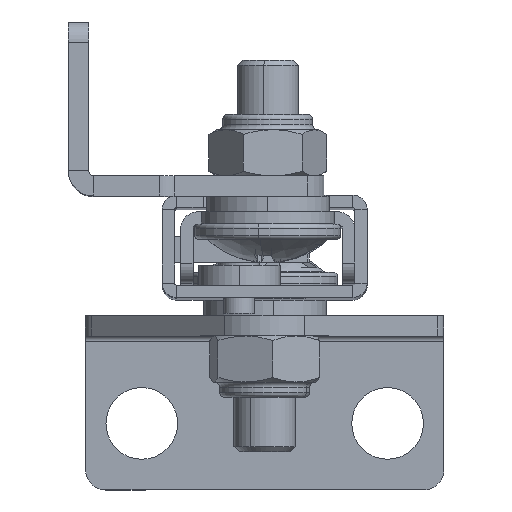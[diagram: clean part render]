
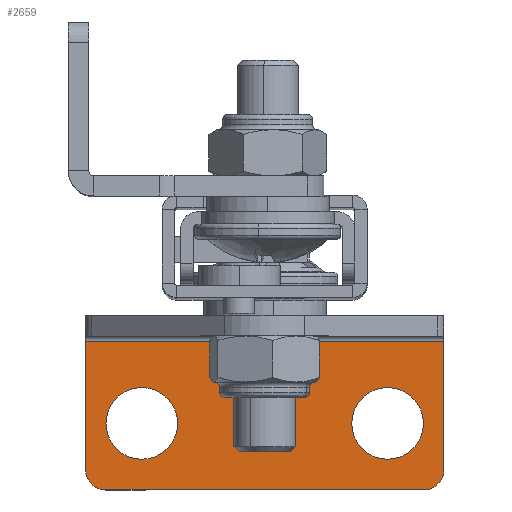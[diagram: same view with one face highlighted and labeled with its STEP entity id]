
A CAD part, top view. The second image highlights one B-rep face of the part: STEP entity #2659.
In plain terms, the highlighted planar face has unit normal (0, 0, 1) as drawn and (0, 1, 0) by its records, which use the part's own axes.
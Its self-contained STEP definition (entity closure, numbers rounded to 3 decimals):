
#7 = AXIS2_PLACEMENT_3D ( 'NONE', #2160, #6446, #2791 ) ;
#17 = CARTESIAN_POINT ( 'NONE',  ( 17.5, 2., 15. ) ) ;
#46 = ORIENTED_EDGE ( 'NONE', *, *, #3852, .T. ) ;
#79 = ORIENTED_EDGE ( 'NONE', *, *, #6822, .T. ) ;
#144 = EDGE_LOOP ( 'NONE', ( #883, #46, #7023, #79, #1412, #944 ) ) ;
#205 = FACE_BOUND ( 'NONE', #1816, .T. ) ;
#251 = CIRCLE ( 'NONE', #1207, 3.5 ) ;
#258 = EDGE_CURVE ( 'NONE', #7790, #3642, #3034, .T. ) ;
#440 = CARTESIAN_POINT ( 'NONE',  ( 17.5, 2., 17. ) ) ;
#506 = DIRECTION ( 'NONE',  ( -1., 0., 0. ) ) ;
#556 = CARTESIAN_POINT ( 'NONE',  ( 17.5, 2., 2.5 ) ) ;
#883 = ORIENTED_EDGE ( 'NONE', *, *, #5287, .F. ) ;
#944 = ORIENTED_EDGE ( 'NONE', *, *, #2532, .T. ) ;
#1095 = DIRECTION ( 'NONE',  ( 0., 0., -1. ) ) ;
#1170 = DIRECTION ( 'NONE',  ( 0., -1., 0. ) ) ;
#1207 = AXIS2_PLACEMENT_3D ( 'NONE', #7327, #3637, #7983 ) ;
#1260 = CARTESIAN_POINT ( 'NONE',  ( -17.5, 2., 15. ) ) ;
#1407 = CARTESIAN_POINT ( 'NONE',  ( -15.5, 2., 17. ) ) ;
#1412 = ORIENTED_EDGE ( 'NONE', *, *, #258, .T. ) ;
#1494 = AXIS2_PLACEMENT_3D ( 'NONE', #3083, #7388, #3694 ) ;
#1555 = VECTOR ( 'NONE', #1095, 1000. ) ;
#1713 = DIRECTION ( 'NONE',  ( -1., 0., 0. ) ) ;
#1790 = AXIS2_PLACEMENT_3D ( 'NONE', #2034, #6337, #2677 ) ;
#1816 = EDGE_LOOP ( 'NONE', ( #5571, #6869 ) ) ;
#2034 = CARTESIAN_POINT ( 'NONE',  ( -15.5, 2., 15. ) ) ;
#2101 = CARTESIAN_POINT ( 'NONE',  ( -12., 2., 10.5 ) ) ;
#2160 = CARTESIAN_POINT ( 'NONE',  ( 15.5, 2., 15. ) ) ;
#2178 = CARTESIAN_POINT ( 'NONE',  ( 12., 2., 14. ) ) ;
#2237 = EDGE_LOOP ( 'NONE', ( #7090, #3566 ) ) ;
#2532 = EDGE_CURVE ( 'NONE', #3642, #5117, #4691, .T. ) ;
#2659 = ADVANCED_FACE ( 'NONE', ( #4970, #205, #3355 ), #3345, .T. ) ;
#2665 = CIRCLE ( 'NONE', #5091, 3.5 ) ;
#2677 = DIRECTION ( 'NONE',  ( 0., 0., 1. ) ) ;
#2724 = DIRECTION ( 'NONE',  ( 0., 0., 1. ) ) ;
#2774 = CIRCLE ( 'NONE', #3594, 3.5 ) ;
#2791 = DIRECTION ( 'NONE',  ( 0., 0., 1. ) ) ;
#3034 = LINE ( 'NONE', #3588, #1555 ) ;
#3067 = VECTOR ( 'NONE', #506, 1000. ) ;
#3083 = CARTESIAN_POINT ( 'NONE',  ( 12., 2., 10.5 ) ) ;
#3098 = CARTESIAN_POINT ( 'NONE',  ( -17.5, 2., 17. ) ) ;
#3205 = CARTESIAN_POINT ( 'NONE',  ( 17.5, 2., 17. ) ) ;
#3345 = PLANE ( 'NONE',  #3392 ) ;
#3355 = FACE_OUTER_BOUND ( 'NONE', #144, .T. ) ;
#3380 = DIRECTION ( 'NONE',  ( 0., 1., 0. ) ) ;
#3392 = AXIS2_PLACEMENT_3D ( 'NONE', #3205, #3380, #3407 ) ;
#3407 = DIRECTION ( 'NONE',  ( 0., 0., 1. ) ) ;
#3566 = ORIENTED_EDGE ( 'NONE', *, *, #7631, .T. ) ;
#3588 = CARTESIAN_POINT ( 'NONE',  ( 17.5, 2., 17. ) ) ;
#3594 = AXIS2_PLACEMENT_3D ( 'NONE', #4883, #1170, #5502 ) ;
#3637 = DIRECTION ( 'NONE',  ( 0., -1., 0. ) ) ;
#3641 = EDGE_CURVE ( 'NONE', #4068, #5885, #2774, .T. ) ;
#3642 = VERTEX_POINT ( 'NONE', #4279 ) ;
#3694 = DIRECTION ( 'NONE',  ( 0., 0., 1. ) ) ;
#3816 = CARTESIAN_POINT ( 'NONE',  ( 15.5, 2., 17. ) ) ;
#3852 = EDGE_CURVE ( 'NONE', #6608, #7942, #5902, .T. ) ;
#3904 = EDGE_CURVE ( 'NONE', #5885, #4068, #2665, .T. ) ;
#3963 = VERTEX_POINT ( 'NONE', #7707 ) ;
#4068 = VERTEX_POINT ( 'NONE', #7786 ) ;
#4102 = CIRCLE ( 'NONE', #1494, 3.5 ) ;
#4279 = CARTESIAN_POINT ( 'NONE',  ( 17.5, 2., 2.5 ) ) ;
#4641 = LINE ( 'NONE', #3098, #6063 ) ;
#4691 = LINE ( 'NONE', #556, #3067 ) ;
#4883 = CARTESIAN_POINT ( 'NONE',  ( -12., 2., 10.5 ) ) ;
#4970 = FACE_BOUND ( 'NONE', #2237, .T. ) ;
#5091 = AXIS2_PLACEMENT_3D ( 'NONE', #2101, #6399, #2724 ) ;
#5117 = VERTEX_POINT ( 'NONE', #7256 ) ;
#5221 = VECTOR ( 'NONE', #1713, 1000. ) ;
#5287 = EDGE_CURVE ( 'NONE', #6608, #5117, #4641, .T. ) ;
#5502 = DIRECTION ( 'NONE',  ( 0., 0., 1. ) ) ;
#5535 = DIRECTION ( 'NONE',  ( 0., 0., -1. ) ) ;
#5571 = ORIENTED_EDGE ( 'NONE', *, *, #3904, .T. ) ;
#5885 = VERTEX_POINT ( 'NONE', #7411 ) ;
#5902 = CIRCLE ( 'NONE', #1790, 2. ) ;
#6063 = VECTOR ( 'NONE', #5535, 1000. ) ;
#6067 = EDGE_CURVE ( 'NONE', #3963, #7970, #4102, .T. ) ;
#6082 = CIRCLE ( 'NONE', #7, 2. ) ;
#6337 = DIRECTION ( 'NONE',  ( 0., 1., 0. ) ) ;
#6399 = DIRECTION ( 'NONE',  ( 0., -1., 0. ) ) ;
#6446 = DIRECTION ( 'NONE',  ( 0., 1., 0. ) ) ;
#6608 = VERTEX_POINT ( 'NONE', #1260 ) ;
#6822 = EDGE_CURVE ( 'NONE', #7817, #7790, #6082, .T. ) ;
#6855 = LINE ( 'NONE', #440, #5221 ) ;
#6869 = ORIENTED_EDGE ( 'NONE', *, *, #3641, .T. ) ;
#7023 = ORIENTED_EDGE ( 'NONE', *, *, #7578, .F. ) ;
#7090 = ORIENTED_EDGE ( 'NONE', *, *, #6067, .T. ) ;
#7256 = CARTESIAN_POINT ( 'NONE',  ( -17.5, 2., 2.5 ) ) ;
#7327 = CARTESIAN_POINT ( 'NONE',  ( 12., 2., 10.5 ) ) ;
#7388 = DIRECTION ( 'NONE',  ( 0., -1., 0. ) ) ;
#7411 = CARTESIAN_POINT ( 'NONE',  ( -12., 2., 7. ) ) ;
#7578 = EDGE_CURVE ( 'NONE', #7817, #7942, #6855, .T. ) ;
#7631 = EDGE_CURVE ( 'NONE', #7970, #3963, #251, .T. ) ;
#7707 = CARTESIAN_POINT ( 'NONE',  ( 12., 2., 7. ) ) ;
#7786 = CARTESIAN_POINT ( 'NONE',  ( -12., 2., 14. ) ) ;
#7790 = VERTEX_POINT ( 'NONE', #17 ) ;
#7817 = VERTEX_POINT ( 'NONE', #3816 ) ;
#7942 = VERTEX_POINT ( 'NONE', #1407 ) ;
#7970 = VERTEX_POINT ( 'NONE', #2178 ) ;
#7983 = DIRECTION ( 'NONE',  ( 0., 0., 1. ) ) ;
